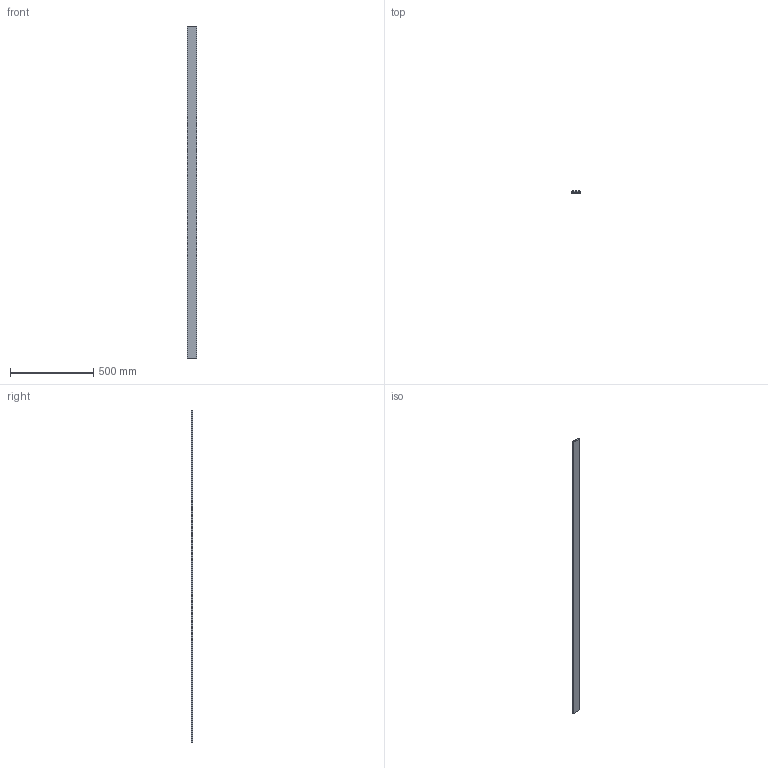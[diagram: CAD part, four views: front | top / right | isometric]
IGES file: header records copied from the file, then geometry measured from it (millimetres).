
Start section: SolidWorks IGES file using analytic representation for surfaces
Global section: file name: C:\Documents and Settings\ARGE\Desktop\yeni katalog tolgay düzenli\E kataloðu\ALPOLEN 1000 3 SIRALI ZÝNCÝR KIZAKLARI\export\207 B35 510.IGS; native system: SolidWorks 2006 by SolidWorks Corporation; preprocessor: SolidWorks 2006 by SolidWorks Corporation; author: ARGE2; date: 060912.121159; units: millimetre
Bounding box: 55 x 10 x 2000 mm (x, y, z)
Surface area: 281757.5 mm2 (no closed solid volume)
Topology: 0 solids, 0 shells, 18 faces, 96 edges, 96 vertices
Faces by surface type: bspline 18
